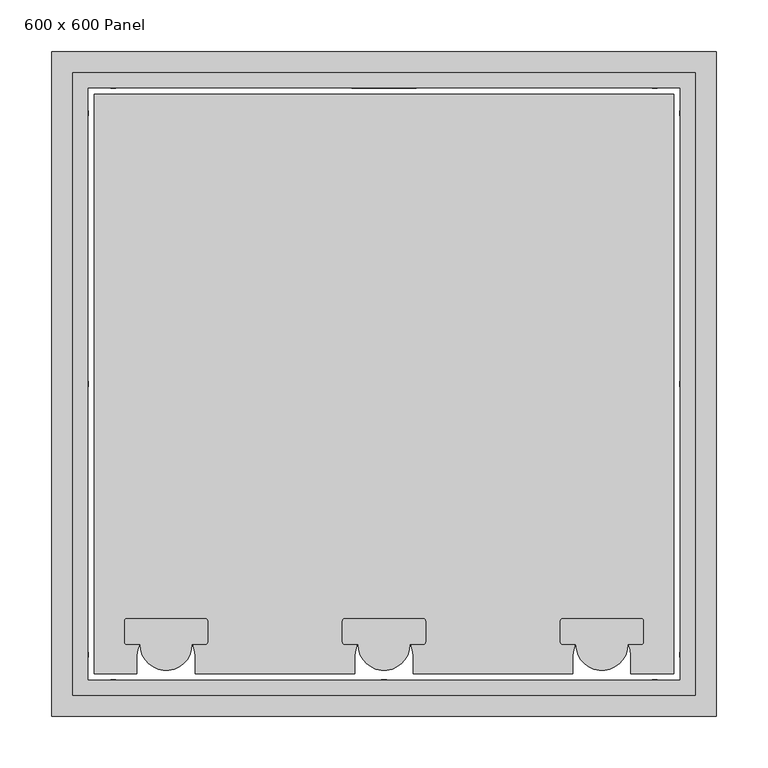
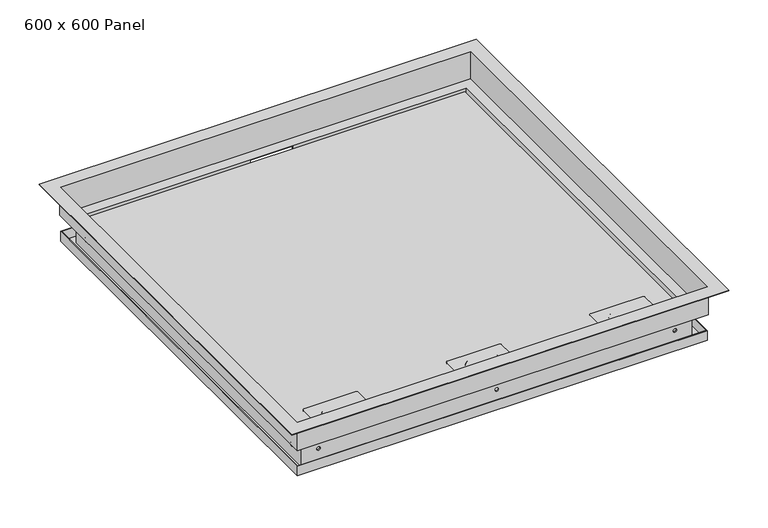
"""IFC4 building model written with IfcOpenShell, lengths in millimetres: proxy geometry, 600 x 600 Fyreshield : 600 x 600 Panel."""

from ifc_helpers import new_model, si_unit, point, frame, frame_2d, origin, place, context, project, spatial, polyline, circle_curve, trimmed, segment, composite_curve, outline, extrude, source, transform, mapped, element, save
from ifc_brep_helpers import plane_surface, revolved_surface, advanced_brep


def proxy_600_x_600_panel_83bb5f35(model_context):
    return source(origin(), model_context, "Body", "SolidModel", [
        advanced_brep(
        [(320.0, 320.0, 0.0), (320.0, 320.0, 1.0), (320.0, -320.0, 1.0), (320.0, -320.0, 0.0), (301.0, 301.0, -42.0), (301.0, 301.0, 0.0), (301.0, -301.0, 0.0), (301.0, -301.0, -42.0), (286.0, 286.0, -81.0), (286.0, 286.0, -42.0), (286.0, -286.0, -42.0), (286.0, -286.0, -81.0), (286.0, -263.5, -61.5), (286.0, -258.5, -61.5), (286.0, -2.5, -61.5), (286.0, 2.5, -61.5), (286.0, 258.5, -61.5), (286.0, 263.5, -61.5), (299.0, 299.0, -67.0), (299.0, 299.0, -81.0), (299.0, -299.0, -81.0), (299.0, -299.0, -67.0), (300.0, 300.0, -82.0), (300.0, 300.0, -67.0), (300.0, -300.0, -67.0), (300.0, -300.0, -82.0), (285.0, 285.0, -41.0), (285.0, 285.0, -82.0), (285.0, -285.0, -82.0), (285.0, -285.0, -41.0), (285.0, -258.5, -61.5), (285.0, -263.5, -61.5), (285.0, 2.5, -61.5), (285.0, -2.5, -61.5), (285.0, 263.5, -61.5), (285.0, 258.5, -61.5), (300.0, 300.0, 1.0), (300.0, 300.0, -41.0), (300.0, -300.0, -41.0), (300.0, -300.0, 1.0), (-320.0, -320.0, 1.0), (-320.0, -320.0, 0.0), (-301.0, -301.0, 0.0), (-301.0, -301.0, -42.0), (-286.0, -286.0, -42.0), (-286.0, -286.0, -81.0), (-263.5, -286.0, -61.5), (-258.5, -286.0, -61.5), (-2.5, -286.0, -61.5), (2.5, -286.0, -61.5), (258.5, -286.0, -61.5), (263.5, -286.0, -61.5), (-299.0, -299.0, -81.0), (-299.0, -299.0, -67.0), (-300.0, -300.0, -67.0), (-300.0, -300.0, -82.0), (-285.0, -285.0, -82.0), (-285.0, -285.0, -41.0), (-258.5, -285.0, -61.5), (-263.5, -285.0, -61.5), (2.5, -285.0, -61.5), (-2.5, -285.0, -61.5), (263.5, -285.0, -61.5), (258.5, -285.0, -61.5), (-300.0, -300.0, -41.0), (-300.0, -300.0, 1.0), (-320.0, 320.0, 1.0), (-320.0, 320.0, 0.0), (-301.0, 301.0, 0.0), (-301.0, 301.0, -42.0), (-286.0, 286.0, -42.0), (-286.0, 286.0, -81.0), (-286.0, 263.5, -61.5), (-286.0, 258.5, -61.5), (-286.0, -258.5, -61.5), (-286.0, -263.5, -61.5), (-286.0, 2.5, -61.5), (-286.0, -2.5, -61.5), (-299.0, 299.0, -81.0), (-299.0, 299.0, -67.0), (-300.0, 300.0, -67.0), (-300.0, 300.0, -82.0), (-285.0, 285.0, -82.0), (-285.0, 285.0, -41.0), (-285.0, 258.5, -61.5), (-285.0, 263.5, -61.5), (-285.0, -263.5, -61.5), (-285.0, -258.5, -61.5), (-285.0, -2.5, -61.5), (-285.0, 2.5, -61.5), (-300.0, 300.0, -41.0), (-300.0, 300.0, 1.0), (30.9960275, 286.0, -42.0), (30.9960275, 285.0, -42.0), (-30.9960275, 285.0, -42.0), (-30.9960275, 286.0, -42.0), (-30.9960275, 286.0, -52.0), (30.9960275, 286.0, -52.0), (263.5, 286.0, -61.5), (258.5, 286.0, -61.5), (-258.5, 286.0, -61.5), (-263.5, 286.0, -61.5), (2.5, 286.0, -61.5), (-2.5, 286.0, -61.5), (258.5, 285.0, -61.5), (263.5, 285.0, -61.5), (-263.5, 285.0, -61.5), (-258.5, 285.0, -61.5), (-2.5, 285.0, -61.5), (2.5, 285.0, -61.5), (30.9960275, 285.0, -52.0), (-30.9960275, 285.0, -52.0)],
        [
            (0, 1),
            (1, 2),
            (2, 3),
            (3, 0),
            (4, 5),
            (5, 6),
            (6, 7),
            (7, 4),
            (8, 9),
            (9, 10),
            (10, 11),
            (11, 8),
            (12, 13, circle_curve(frame((286.0, -261.0, -61.5), z_axis=(-1.0, 0.0, 0.0), x_axis=(0.0, -1.0, 0.0)), 2.5)),
            (13, 12, circle_curve(frame((286.0, -261.0, -61.5), z_axis=(-1.0, 0.0, 0.0), x_axis=(0.0, -1.0, 0.0)), 2.5)),
            (14, 15, circle_curve(frame((286.0, 0.0, -61.5), z_axis=(-1.0, 0.0, 0.0), x_axis=(0.0, -1.0, 0.0)), 2.5)),
            (15, 14, circle_curve(frame((286.0, 0.0, -61.5), z_axis=(-1.0, 0.0, 0.0), x_axis=(0.0, -1.0, 0.0)), 2.5)),
            (16, 17, circle_curve(frame((286.0, 261.0, -61.5), z_axis=(-1.0, 0.0, 0.0), x_axis=(0.0, -1.0, 0.0)), 2.5)),
            (17, 16, circle_curve(frame((286.0, 261.0, -61.5), z_axis=(-1.0, 0.0, 0.0), x_axis=(0.0, -1.0, 0.0)), 2.5)),
            (18, 19),
            (19, 20),
            (20, 21),
            (21, 18),
            (22, 23),
            (23, 24),
            (24, 25),
            (25, 22),
            (26, 27),
            (27, 28),
            (28, 29),
            (29, 26),
            (30, 31, circle_curve(frame((285.0, -261.0, -61.5), z_axis=(1.0, 0.0, 0.0), x_axis=(0.0, -1.0, 0.0)), 2.5)),
            (31, 30, circle_curve(frame((285.0, -261.0, -61.5), z_axis=(1.0, 0.0, 0.0), x_axis=(0.0, -1.0, 0.0)), 2.5)),
            (32, 33, circle_curve(frame((285.0, 0.0, -61.5), z_axis=(1.0, 0.0, 0.0), x_axis=(0.0, -1.0, 0.0)), 2.5)),
            (33, 32, circle_curve(frame((285.0, 0.0, -61.5), z_axis=(1.0, 0.0, 0.0), x_axis=(0.0, -1.0, 0.0)), 2.5)),
            (34, 35, circle_curve(frame((285.0, 261.0, -61.5), z_axis=(1.0, 0.0, 0.0), x_axis=(0.0, -1.0, 0.0)), 2.5)),
            (35, 34, circle_curve(frame((285.0, 261.0, -61.5), z_axis=(1.0, 0.0, 0.0), x_axis=(0.0, -1.0, 0.0)), 2.5)),
            (36, 37),
            (37, 38),
            (38, 39),
            (39, 36),
            (2, 40),
            (40, 41),
            (41, 3),
            (6, 42),
            (42, 43),
            (43, 7),
            (10, 44),
            (44, 45),
            (45, 11),
            (46, 47, circle_curve(frame((-261.0, -286.0, -61.5), z_axis=(0.0, 1.0, 0.0), x_axis=(-1.0, 0.0, 0.0)), 2.5)),
            (47, 46, circle_curve(frame((-261.0, -286.0, -61.5), z_axis=(0.0, 1.0, 0.0), x_axis=(-1.0, 0.0, 0.0)), 2.5)),
            (48, 49, circle_curve(frame((0.0, -286.0, -61.5), z_axis=(0.0, 1.0, 0.0), x_axis=(-1.0, 0.0, 0.0)), 2.5)),
            (49, 48, circle_curve(frame((0.0, -286.0, -61.5), z_axis=(0.0, 1.0, 0.0), x_axis=(-1.0, 0.0, 0.0)), 2.5)),
            (50, 51, circle_curve(frame((261.0, -286.0, -61.5), z_axis=(0.0, 1.0, 0.0), x_axis=(-1.0, 0.0, 0.0)), 2.5)),
            (51, 50, circle_curve(frame((261.0, -286.0, -61.5), z_axis=(0.0, 1.0, 0.0), x_axis=(-1.0, 0.0, 0.0)), 2.5)),
            (20, 52),
            (52, 53),
            (53, 21),
            (24, 54),
            (54, 55),
            (55, 25),
            (28, 56),
            (56, 57),
            (57, 29),
            (58, 59, circle_curve(frame((-261.0, -285.0, -61.5), z_axis=(0.0, -1.0, 0.0), x_axis=(-1.0, 0.0, 0.0)), 2.5)),
            (59, 58, circle_curve(frame((-261.0, -285.0, -61.5), z_axis=(0.0, -1.0, 0.0), x_axis=(-1.0, 0.0, 0.0)), 2.5)),
            (60, 61, circle_curve(frame((0.0, -285.0, -61.5), z_axis=(0.0, -1.0, 0.0), x_axis=(-1.0, 0.0, 0.0)), 2.5)),
            (61, 60, circle_curve(frame((0.0, -285.0, -61.5), z_axis=(0.0, -1.0, 0.0), x_axis=(-1.0, 0.0, 0.0)), 2.5)),
            (62, 63, circle_curve(frame((261.0, -285.0, -61.5), z_axis=(0.0, -1.0, 0.0), x_axis=(-1.0, 0.0, 0.0)), 2.5)),
            (63, 62, circle_curve(frame((261.0, -285.0, -61.5), z_axis=(0.0, -1.0, 0.0), x_axis=(-1.0, 0.0, 0.0)), 2.5)),
            (38, 64),
            (64, 65),
            (65, 39),
            (40, 66),
            (66, 67),
            (67, 41),
            (42, 68),
            (68, 69),
            (69, 43),
            (44, 70),
            (70, 71),
            (71, 45),
            (72, 73, circle_curve(frame((-286.0, 261.0, -61.5), z_axis=(1.0, 0.0, 0.0), x_axis=(0.0, 1.0, 0.0)), 2.5)),
            (73, 72, circle_curve(frame((-286.0, 261.0, -61.5), z_axis=(1.0, 0.0, 0.0), x_axis=(0.0, 1.0, 0.0)), 2.5)),
            (74, 75, circle_curve(frame((-286.0, -261.0, -61.5), z_axis=(1.0, 0.0, 0.0), x_axis=(0.0, 1.0, 0.0)), 2.5)),
            (75, 74, circle_curve(frame((-286.0, -261.0, -61.5), z_axis=(1.0, 0.0, 0.0), x_axis=(0.0, 1.0, 0.0)), 2.5)),
            (76, 77, circle_curve(frame((-286.0, 0.0, -61.5), z_axis=(1.0, 0.0, 0.0), x_axis=(0.0, 1.0, 0.0)), 2.5)),
            (77, 76, circle_curve(frame((-286.0, 0.0, -61.5), z_axis=(1.0, 0.0, 0.0), x_axis=(0.0, 1.0, 0.0)), 2.5)),
            (52, 78),
            (78, 79),
            (79, 53),
            (54, 80),
            (80, 81),
            (81, 55),
            (56, 82),
            (82, 83),
            (83, 57),
            (84, 85, circle_curve(frame((-285.0, 261.0, -61.5), z_axis=(-1.0, 0.0, 0.0), x_axis=(0.0, 1.0, 0.0)), 2.5)),
            (85, 84, circle_curve(frame((-285.0, 261.0, -61.5), z_axis=(-1.0, 0.0, 0.0), x_axis=(0.0, 1.0, 0.0)), 2.5)),
            (86, 87, circle_curve(frame((-285.0, -261.0, -61.5), z_axis=(-1.0, 0.0, 0.0), x_axis=(0.0, 1.0, 0.0)), 2.5)),
            (87, 86, circle_curve(frame((-285.0, -261.0, -61.5), z_axis=(-1.0, 0.0, 0.0), x_axis=(0.0, 1.0, 0.0)), 2.5)),
            (88, 89, circle_curve(frame((-285.0, 0.0, -61.5), z_axis=(-1.0, 0.0, 0.0), x_axis=(0.0, 1.0, 0.0)), 2.5)),
            (89, 88, circle_curve(frame((-285.0, 0.0, -61.5), z_axis=(-1.0, 0.0, 0.0), x_axis=(0.0, 1.0, 0.0)), 2.5)),
            (64, 90),
            (90, 91),
            (91, 65),
            (0, 67),
            (66, 1),
            (5, 68),
            (4, 69),
            (9, 92),
            (92, 93),
            (93, 94),
            (94, 95),
            (95, 70),
            (8, 71),
            (95, 96),
            (96, 97),
            (97, 92),
            (98, 99, circle_curve(frame((261.0, 286.0, -61.5), z_axis=(0.0, -1.0, 0.0), x_axis=(1.0, 0.0, 0.0)), 2.5)),
            (99, 98, circle_curve(frame((261.0, 286.0, -61.5), z_axis=(0.0, -1.0, 0.0), x_axis=(1.0, 0.0, 0.0)), 2.5)),
            (100, 101, circle_curve(frame((-261.0, 286.0, -61.5), z_axis=(0.0, -1.0, 0.0), x_axis=(1.0, 0.0, 0.0)), 2.5)),
            (101, 100, circle_curve(frame((-261.0, 286.0, -61.5), z_axis=(0.0, -1.0, 0.0), x_axis=(1.0, 0.0, 0.0)), 2.5)),
            (102, 103, circle_curve(frame((0.0, 286.0, -61.5), z_axis=(0.0, -1.0, 0.0), x_axis=(1.0, 0.0, 0.0)), 2.5)),
            (103, 102, circle_curve(frame((0.0, 286.0, -61.5), z_axis=(0.0, -1.0, 0.0), x_axis=(1.0, 0.0, 0.0)), 2.5)),
            (19, 78),
            (18, 79),
            (23, 80),
            (22, 81),
            (27, 82),
            (26, 83),
            (104, 105, circle_curve(frame((261.0, 285.0, -61.5), z_axis=(0.0, 1.0, 0.0), x_axis=(1.0, 0.0, 0.0)), 2.5)),
            (105, 104, circle_curve(frame((261.0, 285.0, -61.5), z_axis=(0.0, 1.0, 0.0), x_axis=(1.0, 0.0, 0.0)), 2.5)),
            (106, 107, circle_curve(frame((-261.0, 285.0, -61.5), z_axis=(0.0, 1.0, 0.0), x_axis=(1.0, 0.0, 0.0)), 2.5)),
            (107, 106, circle_curve(frame((-261.0, 285.0, -61.5), z_axis=(0.0, 1.0, 0.0), x_axis=(1.0, 0.0, 0.0)), 2.5)),
            (108, 109, circle_curve(frame((0.0, 285.0, -61.5), z_axis=(0.0, 1.0, 0.0), x_axis=(1.0, 0.0, 0.0)), 2.5)),
            (109, 108, circle_curve(frame((0.0, 285.0, -61.5), z_axis=(0.0, 1.0, 0.0), x_axis=(1.0, 0.0, 0.0)), 2.5)),
            (93, 110),
            (110, 111),
            (111, 94),
            (37, 90),
            (36, 91),
            (98, 105),
            (104, 99),
            (100, 107),
            (106, 101),
            (102, 109),
            (108, 103),
            (72, 85),
            (84, 73),
            (74, 87),
            (86, 75),
            (76, 89),
            (88, 77),
            (12, 31),
            (30, 13),
            (14, 33),
            (32, 15),
            (16, 35),
            (34, 17),
            (46, 59),
            (58, 47),
            (48, 61),
            (60, 49),
            (50, 63),
            (62, 51),
            (97, 110),
            (111, 96),
        ],
        [
            plane_surface(frame((320.0, 320.0, 1.0), z_axis=(1.0, 0.0, 0.0), x_axis=(0.0, -1.0, 0.0))),
            plane_surface(frame((301.0, 301.0, 0.0), z_axis=(1.0, 0.0, 0.0), x_axis=(0.0, -1.0, 0.0))),
            plane_surface(frame((286.0, 286.0, -42.0), z_axis=(1.0, 0.0, 0.0), x_axis=(0.0, -1.0, 0.0))),
            plane_surface(frame((299.0, 299.0, -81.0), z_axis=(-1.0, 0.0, 0.0), x_axis=(0.0, -1.0, 0.0))),
            plane_surface(frame((300.0, 300.0, -67.0), z_axis=(1.0, 0.0, 0.0), x_axis=(0.0, -1.0, 0.0))),
            plane_surface(frame((285.0, 285.0, -82.0), z_axis=(-1.0, 0.0, 0.0), x_axis=(0.0, -1.0, 0.0))),
            plane_surface(frame((300.0, 300.0, -41.0), z_axis=(-1.0, 0.0, 0.0), x_axis=(0.0, -1.0, 0.0))),
            plane_surface(frame((320.0, -320.0, 1.0), z_axis=(0.0, -1.0, 0.0), x_axis=(-1.0, 0.0, 0.0))),
            plane_surface(frame((301.0, -301.0, 0.0), z_axis=(0.0, -1.0, 0.0), x_axis=(-1.0, 0.0, 0.0))),
            plane_surface(frame((286.0, -286.0, -42.0), z_axis=(0.0, -1.0, 0.0), x_axis=(-1.0, 0.0, 0.0))),
            plane_surface(frame((299.0, -299.0, -81.0), z_axis=(0.0, 1.0, 0.0), x_axis=(-1.0, 0.0, 0.0))),
            plane_surface(frame((300.0, -300.0, -67.0), z_axis=(0.0, -1.0, 0.0), x_axis=(-1.0, 0.0, 0.0))),
            plane_surface(frame((285.0, -285.0, -82.0), z_axis=(0.0, 1.0, 0.0), x_axis=(-1.0, 0.0, 0.0))),
            plane_surface(frame((300.0, -300.0, -41.0), z_axis=(0.0, 1.0, 0.0), x_axis=(-1.0, 0.0, 0.0))),
            plane_surface(frame((-320.0, -320.0, 1.0), z_axis=(-1.0, 0.0, 0.0), x_axis=(0.0, 1.0, 0.0))),
            plane_surface(frame((-301.0, -301.0, 0.0), z_axis=(-1.0, 0.0, 0.0), x_axis=(0.0, 1.0, 0.0))),
            plane_surface(frame((-286.0, -286.0, -42.0), z_axis=(-1.0, 0.0, 0.0), x_axis=(0.0, 1.0, 0.0))),
            plane_surface(frame((-299.0, -299.0, -81.0), z_axis=(1.0, 0.0, 0.0), x_axis=(0.0, 1.0, 0.0))),
            plane_surface(frame((-300.0, -300.0, -67.0), z_axis=(-1.0, 0.0, 0.0), x_axis=(0.0, 1.0, 0.0))),
            plane_surface(frame((-285.0, -285.0, -82.0), z_axis=(1.0, 0.0, 0.0), x_axis=(0.0, 1.0, 0.0))),
            plane_surface(frame((-300.0, -300.0, -41.0), z_axis=(1.0, 0.0, 0.0), x_axis=(0.0, 1.0, 0.0))),
            plane_surface(frame((-320.0, 320.0, 1.0), z_axis=(0.0, 1.0, 0.0), x_axis=(1.0, 0.0, 0.0))),
            plane_surface(frame((-320.0, 320.0, 0.0), z_axis=(0.0, 0.0, -1.0), x_axis=(1.0, 0.0, 0.0))),
            plane_surface(frame((-301.0, 301.0, 0.0), z_axis=(0.0, 1.0, 0.0), x_axis=(1.0, 0.0, 0.0))),
            plane_surface(frame((-301.0, 301.0, -42.0), z_axis=(0.0, 0.0, -1.0), x_axis=(1.0, 0.0, 0.0))),
            plane_surface(frame((-286.0, 286.0, -42.0), z_axis=(0.0, 1.0, 0.0), x_axis=(1.0, 0.0, 0.0))),
            plane_surface(frame((-286.0, 286.0, -81.0), z_axis=(0.0, 0.0, 1.0), x_axis=(1.0, 0.0, 0.0))),
            plane_surface(frame((-299.0, 299.0, -81.0), z_axis=(0.0, -1.0, 0.0), x_axis=(1.0, 0.0, 0.0))),
            plane_surface(frame((-299.0, 299.0, -67.0), z_axis=(0.0, 0.0, 1.0), x_axis=(1.0, 0.0, 0.0))),
            plane_surface(frame((-300.0, 300.0, -67.0), z_axis=(0.0, 1.0, 0.0), x_axis=(1.0, 0.0, 0.0))),
            plane_surface(frame((-300.0, 300.0, -82.0), z_axis=(0.0, 0.0, -1.0), x_axis=(1.0, 0.0, 0.0))),
            plane_surface(frame((-285.0, 285.0, -82.0), z_axis=(0.0, -1.0, 0.0), x_axis=(1.0, 0.0, 0.0))),
            plane_surface(frame((-285.0, 285.0, -41.0), z_axis=(0.0, 0.0, 1.0), x_axis=(1.0, 0.0, 0.0))),
            plane_surface(frame((-300.0, 300.0, -41.0), z_axis=(0.0, -1.0, 0.0), x_axis=(1.0, 0.0, 0.0))),
            plane_surface(frame((-300.0, 300.0, 1.0), z_axis=(0.0, 0.0, 1.0), x_axis=(1.0, 0.0, 0.0))),
            revolved_surface(polyline([(263.5, 286.0, -61.5), (263.5, 285.0, -61.5)]), (261.0, 285.0, -61.5), (0.0, 1.0, 0.0)),
            revolved_surface(polyline([(-258.5, 286.0, -61.5), (-258.5, 285.0, -61.5)]), (-261.0, 286.0, -61.5), (0.0, 1.0, 0.0)),
            revolved_surface(polyline([(2.5, 286.0, -61.5), (2.5, 285.0, -61.5)]), (0.0, 286.0, -61.5), (0.0, 1.0, 0.0)),
            revolved_surface(polyline([(-286.0, 263.5, -61.5), (-285.0, 263.5, -61.5)]), (-285.0, 261.0, -61.5), (-1.0, 0.0, 0.0)),
            revolved_surface(polyline([(-286.0, -258.5, -61.5), (-285.0, -258.5, -61.5)]), (-286.0, -261.0, -61.5), (-1.0, 0.0, 0.0)),
            revolved_surface(polyline([(-286.0, 2.5, -61.5), (-285.0, 2.5, -61.5)]), (-286.0, 0.0, -61.5), (-1.0, 0.0, 0.0)),
            revolved_surface(polyline([(286.0, -263.5, -61.5), (285.0, -263.5, -61.5)]), (285.0, -261.0, -61.5), (1.0, 0.0, 0.0)),
            revolved_surface(polyline([(286.0, -2.5, -61.5), (285.0, -2.5, -61.5)]), (286.0, 0.0, -61.5), (1.0, 0.0, 0.0)),
            revolved_surface(polyline([(286.0, 258.5, -61.5), (285.0, 258.5, -61.5)]), (286.0, 261.0, -61.5), (1.0, 0.0, 0.0)),
            revolved_surface(polyline([(-263.5, -286.0, -61.5), (-263.5, -285.0, -61.5)]), (-261.0, -285.0, -61.5), (0.0, -1.0, 0.0)),
            revolved_surface(polyline([(-2.5, -286.0, -61.5), (-2.5, -285.0, -61.5)]), (0.0, -286.0, -61.5), (0.0, -1.0, 0.0)),
            revolved_surface(polyline([(258.5, -286.0, -61.5), (258.5, -285.0, -61.5)]), (261.0, -286.0, -61.5), (0.0, -1.0, 0.0)),
            plane_surface(frame((30.9960275, 284.0, -52.0), z_axis=(-1.0, 0.0, 0.0), x_axis=(0.0, 1.0, 0.0))),
            plane_surface(frame((-30.9960275, 284.0, -42.0), z_axis=(1.0, 0.0, 0.0), x_axis=(0.0, 1.0, 0.0))),
            plane_surface(frame((-30.9960275, 284.0, -52.0), z_axis=(0.0, 0.0, 1.0), x_axis=(0.0, 1.0, 0.0))),
        ],
        [
            (0, [[1, 2, 3, 4]]),
            (1, [[5, 6, 7, 8]]),
            (2, [[9, 10, 11, 12], [13, 14], [15, 16], [17, 18]]),
            (3, [[19, 20, 21, 22]]),
            (4, [[23, 24, 25, 26]]),
            (5, [[27, 28, 29, 30], [31, 32], [33, 34], [35, 36]]),
            (6, [[37, 38, 39, 40]]),
            (7, [[-3, 41, 42, 43]]),
            (8, [[-7, 44, 45, 46]]),
            (9, [[-11, 47, 48, 49], [50, 51], [52, 53], [54, 55]]),
            (10, [[-21, 56, 57, 58]]),
            (11, [[-25, 59, 60, 61]]),
            (12, [[-29, 62, 63, 64], [65, 66], [67, 68], [69, 70]]),
            (13, [[-39, 71, 72, 73]]),
            (14, [[-42, 74, 75, 76]]),
            (15, [[-45, 77, 78, 79]]),
            (16, [[-48, 80, 81, 82], [83, 84], [85, 86], [87, 88]]),
            (17, [[-57, 89, 90, 91]]),
            (18, [[-60, 92, 93, 94]]),
            (19, [[-63, 95, 96, 97], [98, 99], [100, 101], [102, 103]]),
            (20, [[-72, 104, 105, 106]]),
            (21, [[-1, 107, -75, 108]]),
            (22, [[-4, -43, -76, -107], [-6, 109, -77, -44]]),
            (23, [[-5, 110, -78, -109]]),
            (24, [[-8, -46, -79, -110], [-10, 111, 112, 113, 114, 115, -80, -47]]),
            (25, [[-9, 116, -81, -115, 117, 118, 119, -111], [120, 121], [122, 123], [124, 125]]),
            (26, [[-20, 126, -89, -56], [-12, -49, -82, -116]]),
            (27, [[-19, 127, -90, -126]]),
            (28, [[-24, 128, -92, -59], [-22, -58, -91, -127]]),
            (29, [[-23, 129, -93, -128]]),
            (30, [[-26, -61, -94, -129], [-28, 130, -95, -62]]),
            (31, [[-27, 131, -96, -130], [132, 133], [134, 135], [136, 137], [138, 139, 140, -113]]),
            (32, [[-38, 141, -104, -71], [-30, -64, -97, -131]]),
            (33, [[-37, 142, -105, -141]]),
            (34, [[-2, -108, -74, -41], [-40, -73, -106, -142]]),
            (35, [[143, -132, 144, -120]]),
            (35, [[-143, -121, -144, -133]]),
            (36, [[145, -134, 146, -122]]),
            (36, [[-145, -123, -146, -135]]),
            (37, [[147, -136, 148, -124]]),
            (37, [[-147, -125, -148, -137]]),
            (38, [[149, -98, 150, -83]]),
            (38, [[-149, -84, -150, -99]]),
            (39, [[151, -100, 152, -85]]),
            (39, [[-151, -86, -152, -101]]),
            (40, [[153, -102, 154, -87]]),
            (40, [[-153, -88, -154, -103]]),
            (41, [[155, -31, 156, -13]]),
            (41, [[-155, -14, -156, -32]]),
            (42, [[157, -33, 158, -15]]),
            (42, [[-157, -16, -158, -34]]),
            (43, [[159, -35, 160, -17]]),
            (43, [[-159, -18, -160, -36]]),
            (44, [[161, -65, 162, -50]]),
            (44, [[-161, -51, -162, -66]]),
            (45, [[163, -67, 164, -52]]),
            (45, [[-163, -53, -164, -68]]),
            (46, [[165, -69, 166, -54]]),
            (46, [[-165, -55, -166, -70]]),
            (47, [[167, -138, -112, -119]]),
            (48, [[-114, -140, 168, -117]]),
            (49, [[-167, -118, -168, -139]]),
        ],
    ),
        extrude(outline(composite_curve([segment(trimmed(circle_curve(frame_2d((210.0, -251.0)), 25.0), [point((235.0, -251.0))], [point((185.0, -251.0))], False, "CARTESIAN"), True, "CONTINUOUS"), segment(polyline([(185.0, -251.0), (172.5, -251.0)]), True, "CONTINUOUS"), segment(trimmed(circle_curve(frame_2d((172.5, -248.5)), 2.5), [point((172.5, -251.0))], [point((170.0, -248.5))], False, "CARTESIAN"), True, "CONTINUOUS"), segment(polyline([(170.0, -248.5), (170.0, -228.5)]), True, "CONTINUOUS"), segment(trimmed(circle_curve(frame_2d((172.5, -228.5)), 2.5), [point((170.0, -228.5))], [point((172.5, -226.0))], False, "CARTESIAN"), True, "CONTINUOUS"), segment(polyline([(172.5, -226.0), (210.0, -226.0), (247.5, -226.0)]), True, "CONTINUOUS"), segment(trimmed(circle_curve(frame_2d((247.5, -228.5)), 2.5), [point((247.5, -226.0))], [point((250.0, -228.5))], False, "CARTESIAN"), True, "CONTINUOUS"), segment(polyline([(250.0, -228.5), (250.0, -248.5)]), True, "CONTINUOUS"), segment(trimmed(circle_curve(frame_2d((247.5, -248.5)), 2.5), [point((250.0, -248.5))], [point((247.5, -251.0))], False, "CARTESIAN"), True, "CONTINUOUS"), segment(polyline([(247.5, -251.0), (235.0, -251.0)]), True, "CONTINUOUS")], self_intersect=False)), frame((0.0, 0.0, -43.0), z_axis=(0.0, 0.0, 1.0), x_axis=(1.0, 0.0, 0.0)), (0.0, 0.0, 1.0), 2.0),
        extrude(outline(composite_curve([segment(trimmed(circle_curve(frame_2d((0.0, -251.0)), 25.0), [point((25.0, -251.0))], [point((-25.0, -251.0))], False, "CARTESIAN"), True, "CONTINUOUS"), segment(polyline([(-25.0, -251.0), (-37.5, -251.0)]), True, "CONTINUOUS"), segment(trimmed(circle_curve(frame_2d((-37.5, -248.5)), 2.5), [point((-37.5, -251.0))], [point((-40.0, -248.5))], False, "CARTESIAN"), True, "CONTINUOUS"), segment(polyline([(-40.0, -248.5), (-40.0, -228.5)]), True, "CONTINUOUS"), segment(trimmed(circle_curve(frame_2d((-37.5, -228.5)), 2.5), [point((-40.0, -228.5))], [point((-37.5, -226.0))], False, "CARTESIAN"), True, "CONTINUOUS"), segment(polyline([(-37.5, -226.0), (0.0, -226.0), (37.5, -226.0)]), True, "CONTINUOUS"), segment(trimmed(circle_curve(frame_2d((37.5, -228.5)), 2.5), [point((37.5, -226.0))], [point((40.0, -228.5))], False, "CARTESIAN"), True, "CONTINUOUS"), segment(polyline([(40.0, -228.5), (40.0, -248.5)]), True, "CONTINUOUS"), segment(trimmed(circle_curve(frame_2d((37.5, -248.5)), 2.5), [point((40.0, -248.5))], [point((37.5, -251.0))], False, "CARTESIAN"), True, "CONTINUOUS"), segment(polyline([(37.5, -251.0), (25.0, -251.0)]), True, "CONTINUOUS")], self_intersect=False)), frame((0.0, 0.0, -43.0), z_axis=(0.0, 0.0, 1.0), x_axis=(1.0, 0.0, 0.0)), (0.0, 0.0, 1.0), 2.0),
        extrude(outline(composite_curve([segment(trimmed(circle_curve(frame_2d((-210.0, -251.0)), 25.0), [point((-185.0, -251.0))], [point((-235.0, -251.0))], False, "CARTESIAN"), True, "CONTINUOUS"), segment(polyline([(-235.0, -251.0), (-247.5, -251.0)]), True, "CONTINUOUS"), segment(trimmed(circle_curve(frame_2d((-247.5, -248.5)), 2.5), [point((-247.5, -251.0))], [point((-250.0, -248.5))], False, "CARTESIAN"), True, "CONTINUOUS"), segment(polyline([(-250.0, -248.5), (-250.0, -228.5)]), True, "CONTINUOUS"), segment(trimmed(circle_curve(frame_2d((-247.5, -228.5)), 2.5), [point((-250.0, -228.5))], [point((-247.5, -226.0))], False, "CARTESIAN"), True, "CONTINUOUS"), segment(polyline([(-247.5, -226.0), (-210.0, -226.0), (-172.5, -226.0)]), True, "CONTINUOUS"), segment(trimmed(circle_curve(frame_2d((-172.5, -228.5)), 2.5), [point((-172.5, -226.0))], [point((-170.0, -228.5))], False, "CARTESIAN"), True, "CONTINUOUS"), segment(polyline([(-170.0, -228.5), (-170.0, -248.5)]), True, "CONTINUOUS"), segment(trimmed(circle_curve(frame_2d((-172.5, -248.5)), 2.5), [point((-170.0, -248.5))], [point((-172.5, -251.0))], False, "CARTESIAN"), True, "CONTINUOUS"), segment(polyline([(-172.5, -251.0), (-185.0, -251.0)]), True, "CONTINUOUS")], self_intersect=False)), frame((0.0, 0.0, -43.0), z_axis=(0.0, 0.0, 1.0), x_axis=(1.0, 0.0, 0.0)), (0.0, 0.0, 1.0), 2.0),
        extrude(outline(composite_curve([segment(polyline([(279.0, 279.0), (279.0, -279.0), (238.0, -279.0), (238.0, -262.0)]), True, "CONTINUOUS"), segment(trimmed(circle_curve(frame_2d((210.0, -262.0)), 28.0), [point((238.0, -262.0))], [point((182.0, -262.0))], True, "CARTESIAN"), True, "CONTINUOUS"), segment(polyline([(182.0, -262.0), (182.0, -279.0), (28.0, -279.0), (28.0, -262.0)]), True, "CONTINUOUS"), segment(trimmed(circle_curve(frame_2d((0.0, -262.0)), 28.0), [point((28.0, -262.0))], [point((-28.0, -262.0))], True, "CARTESIAN"), True, "CONTINUOUS"), segment(polyline([(-28.0, -262.0), (-28.0, -279.0), (-182.0, -279.0), (-182.0, -262.0)]), True, "CONTINUOUS"), segment(trimmed(circle_curve(frame_2d((-210.0, -262.0)), 28.0), [point((-182.0, -262.0))], [point((-238.0, -262.0))], True, "CARTESIAN"), True, "CONTINUOUS"), segment(polyline([(-238.0, -262.0), (-238.0, -279.0), (-279.0, -279.0), (-279.0, 279.0), (279.0, 279.0)]), True, "CONTINUOUS")], self_intersect=False)), frame((0.0, 0.0, -77.0), z_axis=(0.0, 0.0, 1.0), x_axis=(1.0, 0.0, 0.0)), (0.0, 0.0, 1.0), 36.0),
    ])


if __name__ == "__main__":
    model = new_model("IFC4")
    model_context = context("Model", 3, world=origin())
    ifc_project = project(units=[si_unit("LENGTHUNIT", "METRE", prefix="MILLI")], contexts=[model_context])
    site = spatial("IfcSite", under=ifc_project)
    building = spatial("IfcBuilding", under=site)
    placement = place(None, origin())
    proxy_600_x_600_panel_shape = proxy_600_x_600_panel_83bb5f35(model_context)
    element("IfcBuildingElementProxy", 1, Name="600 x 600 Fyreshield : 600 x 600 Panel", ObjectType="600 x 600 Fyreshield : 600 x 600 Panel", at=placement, inside=building, context=model_context, shape_type="MappedRepresentation", body=[
        mapped(proxy_600_x_600_panel_shape, transform((0.0, 0.0, 0.0), x_axis=(1.0, 0.0, 0.0), y_axis=(0.0, 1.0, 0.0), z_axis=(0.0, 0.0, 1.0))),
    ])
    save(model, "model.ifc")
